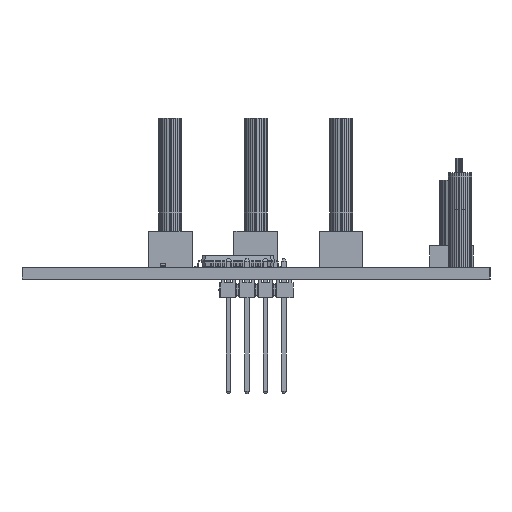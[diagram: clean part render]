
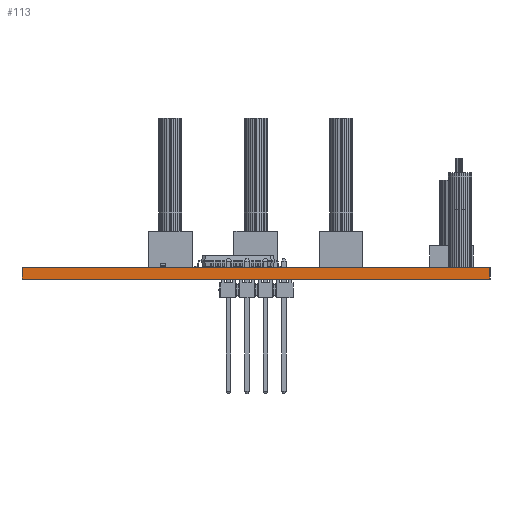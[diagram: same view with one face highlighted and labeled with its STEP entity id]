
A CAD part, left-side view. The second image highlights one B-rep face of the part: STEP entity #113.
In plain terms, the highlighted planar face has unit normal (-1, 0, 0).
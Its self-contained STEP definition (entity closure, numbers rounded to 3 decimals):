
#113 = ADVANCED_FACE('',(#114),#148,.T.);
#114 = FACE_BOUND('',#115,.T.);
#115 = EDGE_LOOP('',(#116,#126,#134,#142));
#116 = ORIENTED_EDGE('',*,*,#117,.T.);
#117 = EDGE_CURVE('',#118,#120,#122,.T.);
#118 = VERTEX_POINT('',#119);
#119 = CARTESIAN_POINT('',(-2.45,-62.,0.));
#120 = VERTEX_POINT('',#121);
#121 = CARTESIAN_POINT('',(-2.45,-62.,1.601));
#122 = LINE('',#123,#124);
#123 = CARTESIAN_POINT('',(-2.45,-62.,0.));
#124 = VECTOR('',#125,1.);
#125 = DIRECTION('',(0.,0.,1.));
#126 = ORIENTED_EDGE('',*,*,#127,.T.);
#127 = EDGE_CURVE('',#120,#128,#130,.T.);
#128 = VERTEX_POINT('',#129);
#129 = CARTESIAN_POINT('',(-2.45,2.4,1.601));
#130 = LINE('',#131,#132);
#131 = CARTESIAN_POINT('',(-2.45,-62.,1.601));
#132 = VECTOR('',#133,1.);
#133 = DIRECTION('',(0.,1.,0.));
#134 = ORIENTED_EDGE('',*,*,#135,.F.);
#135 = EDGE_CURVE('',#136,#128,#138,.T.);
#136 = VERTEX_POINT('',#137);
#137 = CARTESIAN_POINT('',(-2.45,2.4,0.));
#138 = LINE('',#139,#140);
#139 = CARTESIAN_POINT('',(-2.45,2.4,0.));
#140 = VECTOR('',#141,1.);
#141 = DIRECTION('',(0.,0.,1.));
#142 = ORIENTED_EDGE('',*,*,#143,.F.);
#143 = EDGE_CURVE('',#118,#136,#144,.T.);
#144 = LINE('',#145,#146);
#145 = CARTESIAN_POINT('',(-2.45,-62.,0.));
#146 = VECTOR('',#147,1.);
#147 = DIRECTION('',(0.,1.,0.));
#148 = PLANE('',#149);
#149 = AXIS2_PLACEMENT_3D('',#150,#151,#152);
#150 = CARTESIAN_POINT('',(-2.45,-62.,0.));
#151 = DIRECTION('',(-1.,0.,0.));
#152 = DIRECTION('',(0.,1.,0.));
